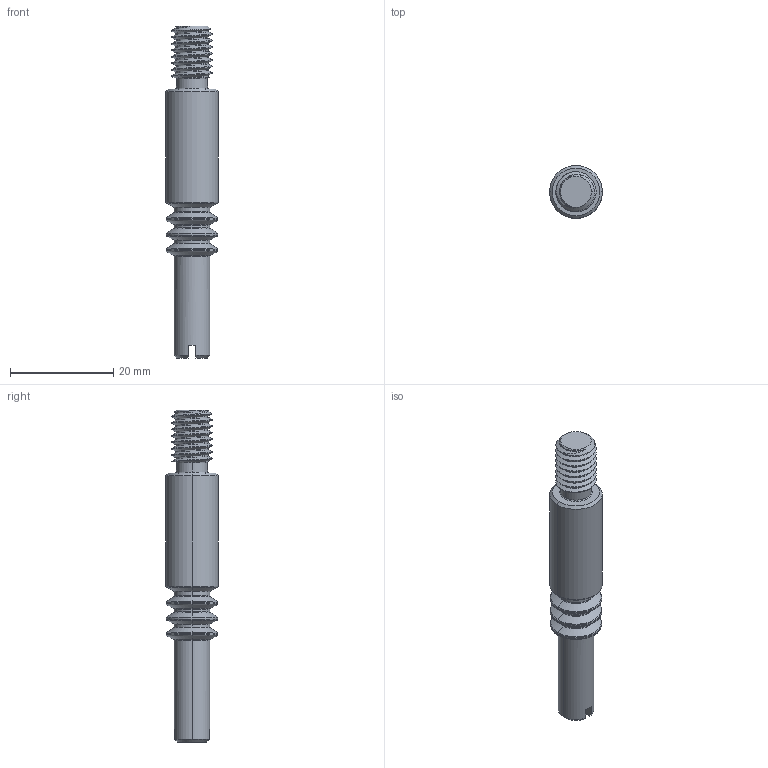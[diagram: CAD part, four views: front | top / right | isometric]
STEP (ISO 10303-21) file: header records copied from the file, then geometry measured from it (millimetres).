
FILE_DESCRIPTION (( 'STEP AP203' ), '1' );
FILE_NAME ('11.03.620 64mm Dowel Fuerte ø 11mm x 52mm M8 x 12mm.STEP', '2024-12-19T06:22:35', ( '' ), ( '' ), 'SwSTEP 2.0', 'SolidWorks 2024', '' );
FILE_SCHEMA (( 'CONFIG_CONTROL_DESIGN' ));
Length unit declared in the file: millimetre
Products named in the file (1): 11.03.620 64mm Dowel Fuerte ø 11mm x 52mm M8 x 12mm
Bounding box: 10.2 x 10.2 x 64.2 mm (x, y, z)
Surface area: 2099 mm2 (no closed solid volume)
Topology: 0 solids, 1 shells, 115 faces, 273 edges, 161 vertices
Faces by surface type: cylinder 51, torus 32, cone 22, plane 8, bspline 2
Entity records: 6291 total; most frequent: CARTESIAN_POINT 3705, ORIENTED_EDGE 546, DIRECTION 545, EDGE_CURVE 273, AXIS2_PLACEMENT_3D 234, VERTEX_POINT 161, CIRCLE 120, EDGE_LOOP 116
